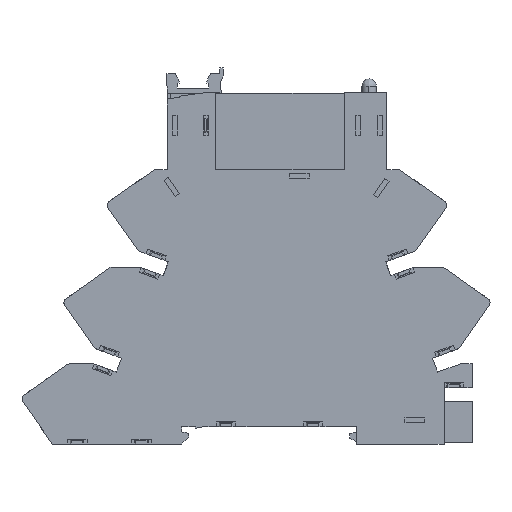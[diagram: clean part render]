
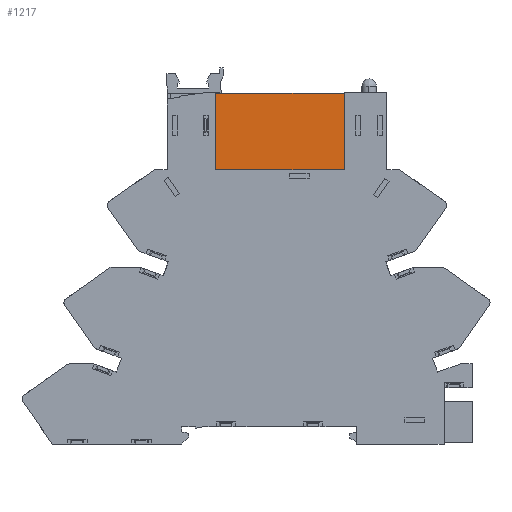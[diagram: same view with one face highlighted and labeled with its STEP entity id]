
A CAD part, left-side view. The second image highlights one B-rep face of the part: STEP entity #1217.
In plain terms, the highlighted planar face has unit normal (-1, 0, 0).
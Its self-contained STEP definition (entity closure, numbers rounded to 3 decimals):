
#943 = AXIS2_PLACEMENT_3D ( 'NONE', #27157, #10446, #7119 ) ;
#1081 = PLANE ( 'NONE',  #943 ) ;
#1217 = ADVANCED_FACE ( 'NONE', ( #20832 ), #1081, .T. ) ;
#1529 = CARTESIAN_POINT ( 'NONE',  ( -3., 1.384, 52.359 ) ) ;
#2262 = LINE ( 'NONE', #19655, #14808 ) ;
#4557 = VERTEX_POINT ( 'NONE', #18967 ) ;
#5123 = DIRECTION ( 'NONE',  ( 0., -1., 0. ) ) ;
#5850 = VECTOR ( 'NONE', #25117, 1000. ) ;
#6274 = ORIENTED_EDGE ( 'NONE', *, *, #14499, .F. ) ;
#7119 = DIRECTION ( 'NONE',  ( 0., -1., 0. ) ) ;
#8535 = ORIENTED_EDGE ( 'NONE', *, *, #9239, .F. ) ;
#8593 = DIRECTION ( 'NONE',  ( 0., 1., 0. ) ) ;
#9181 = CARTESIAN_POINT ( 'NONE',  ( -3., 10.976, 52.359 ) ) ;
#9239 = EDGE_CURVE ( 'NONE', #15121, #18885, #13164, .T. ) ;
#10446 = DIRECTION ( 'NONE',  ( -1., 0., 0. ) ) ;
#10785 = CARTESIAN_POINT ( 'NONE',  ( -3., -15.206, -0.099 ) ) ;
#11358 = ORIENTED_EDGE ( 'NONE', *, *, #16156, .F. ) ;
#12070 = LINE ( 'NONE', #10785, #5850 ) ;
#13164 = LINE ( 'NONE', #1529, #30027 ) ;
#13460 = ORIENTED_EDGE ( 'NONE', *, *, #25664, .T. ) ;
#14499 = EDGE_CURVE ( 'NONE', #4557, #30630, #17276, .T. ) ;
#14808 = VECTOR ( 'NONE', #24559, 1000. ) ;
#15121 = VERTEX_POINT ( 'NONE', #22016 ) ;
#16156 = EDGE_CURVE ( 'NONE', #30630, #15121, #12070, .T. ) ;
#17276 = LINE ( 'NONE', #21746, #23634 ) ;
#18885 = VERTEX_POINT ( 'NONE', #9181 ) ;
#18967 = CARTESIAN_POINT ( 'NONE',  ( -3., 10.976, 67.991 ) ) ;
#19655 = CARTESIAN_POINT ( 'NONE',  ( -3., 10.976, -0.099 ) ) ;
#20832 = FACE_OUTER_BOUND ( 'NONE', #29984, .T. ) ;
#21746 = CARTESIAN_POINT ( 'NONE',  ( -3., 20.845, 67.991 ) ) ;
#21943 = CARTESIAN_POINT ( 'NONE',  ( -3., -15.206, 67.991 ) ) ;
#22016 = CARTESIAN_POINT ( 'NONE',  ( -3., -15.206, 52.359 ) ) ;
#23634 = VECTOR ( 'NONE', #5123, 1000. ) ;
#24559 = DIRECTION ( 'NONE',  ( 0., 0., -1. ) ) ;
#25117 = DIRECTION ( 'NONE',  ( 0., 0., -1. ) ) ;
#25664 = EDGE_CURVE ( 'NONE', #4557, #18885, #2262, .T. ) ;
#27157 = CARTESIAN_POINT ( 'NONE',  ( -3., 1.384, -0.099 ) ) ;
#29984 = EDGE_LOOP ( 'NONE', ( #6274, #13460, #8535, #11358 ) ) ;
#30027 = VECTOR ( 'NONE', #8593, 1000. ) ;
#30630 = VERTEX_POINT ( 'NONE', #21943 ) ;
